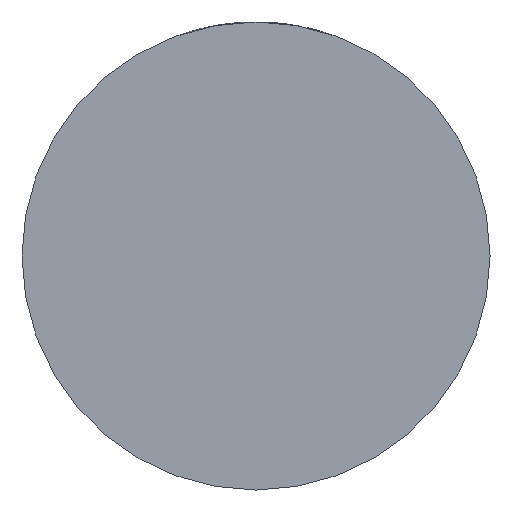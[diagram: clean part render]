
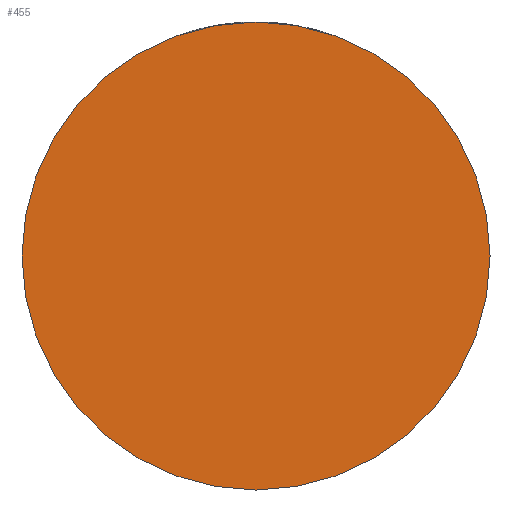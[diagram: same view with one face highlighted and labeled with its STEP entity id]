
A CAD part, front view. The second image highlights one B-rep face of the part: STEP entity #455.
In plain terms, the highlighted planar face has unit normal (0, -1, 0).
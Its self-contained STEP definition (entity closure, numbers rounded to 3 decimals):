
#148 = CARTESIAN_POINT ( 'NONE',  ( 0., -26., 0. ) ) ;
#455 = ADVANCED_FACE ( 'NONE', ( #695 ), #2100, .T. ) ;
#695 = FACE_OUTER_BOUND ( 'NONE', #4311, .T. ) ;
#716 = CARTESIAN_POINT ( 'NONE',  ( 0., -26., 0. ) ) ;
#982 = AXIS2_PLACEMENT_3D ( 'NONE', #148, #3235, #4171 ) ;
#1014 = ORIENTED_EDGE ( 'NONE', *, *, #3788, .T. ) ;
#1056 = DIRECTION ( 'NONE',  ( 0., -1., 0. ) ) ;
#1174 = EDGE_CURVE ( 'NONE', #3443, #1710, #1175, .T. ) ;
#1175 = CIRCLE ( 'NONE', #4178, 32.5 ) ;
#1260 = CARTESIAN_POINT ( 'NONE',  ( 32.5, -26., 0. ) ) ;
#1380 = AXIS2_PLACEMENT_3D ( 'NONE', #716, #1056, #4088 ) ;
#1489 = DIRECTION ( 'NONE',  ( 0., -1., 0. ) ) ;
#1553 = CARTESIAN_POINT ( 'NONE',  ( -32.5, -26., 0. ) ) ;
#1710 = VERTEX_POINT ( 'NONE', #1260 ) ;
#2100 = PLANE ( 'NONE',  #1380 ) ;
#2775 = CIRCLE ( 'NONE', #982, 32.5 ) ;
#3235 = DIRECTION ( 'NONE',  ( 0., -1., 0. ) ) ;
#3443 = VERTEX_POINT ( 'NONE', #1553 ) ;
#3554 = DIRECTION ( 'NONE',  ( 1., 0., 0. ) ) ;
#3788 = EDGE_CURVE ( 'NONE', #1710, #3443, #2775, .T. ) ;
#3907 = CARTESIAN_POINT ( 'NONE',  ( 0., -26., 0. ) ) ;
#4088 = DIRECTION ( 'NONE',  ( 1., 0., 0. ) ) ;
#4171 = DIRECTION ( 'NONE',  ( 1., 0., 0. ) ) ;
#4178 = AXIS2_PLACEMENT_3D ( 'NONE', #3907, #1489, #3554 ) ;
#4267 = ORIENTED_EDGE ( 'NONE', *, *, #1174, .T. ) ;
#4311 = EDGE_LOOP ( 'NONE', ( #4267, #1014 ) ) ;
